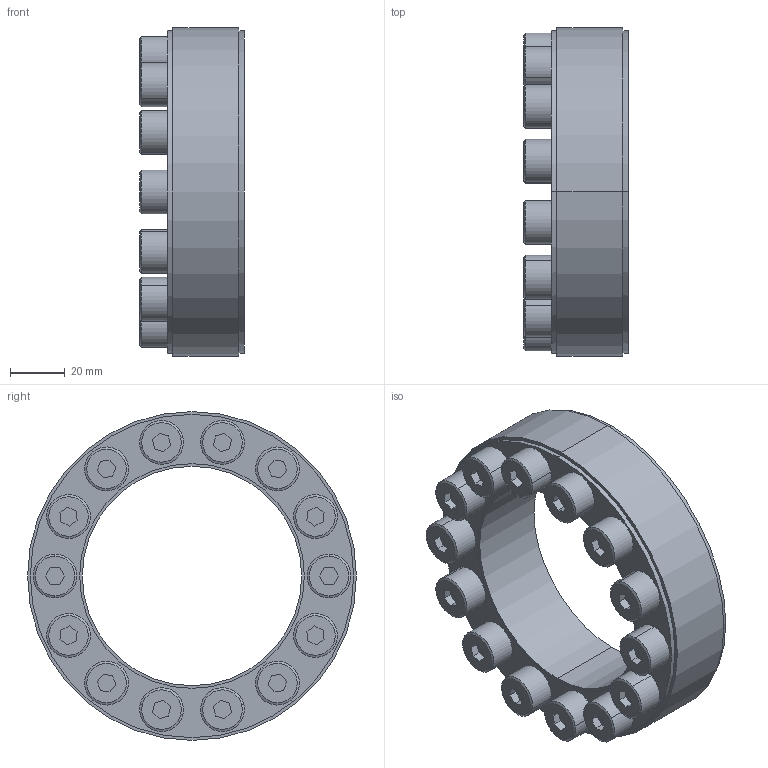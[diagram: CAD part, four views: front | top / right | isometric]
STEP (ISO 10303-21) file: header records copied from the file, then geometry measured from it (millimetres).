
FILE_DESCRIPTION (( 'STEP AP203' ), '1' );
FILE_NAME ('SA-80.step', '2009-09-29T15:31:43', ( 'USER' ), ( 'HOME' ), 'SwSTEP 2.0', 'SolidWorks 2007', '' );
FILE_SCHEMA (( 'CONFIG_CONTROL_DESIGN' ));
Length unit declared in the file: millimetre
Products named in the file (1): SA-80
Bounding box: 38 x 120 x 120 mm (x, y, z)
Volume: 206197.6 mm3; surface area: 96107.4 mm2
Topology: 17 solids, 17 shells, 278 faces, 612 edges, 396 vertices
Faces by surface type: plane 146, cylinder 88, cone 44
Entity records: 7769 total; most frequent: DIRECTION 1398, CARTESIAN_POINT 1287, ORIENTED_EDGE 1224, EDGE_CURVE 612, AXIS2_PLACEMENT_3D 507, VERTEX_POINT 396, VECTOR 384, LINE 384
